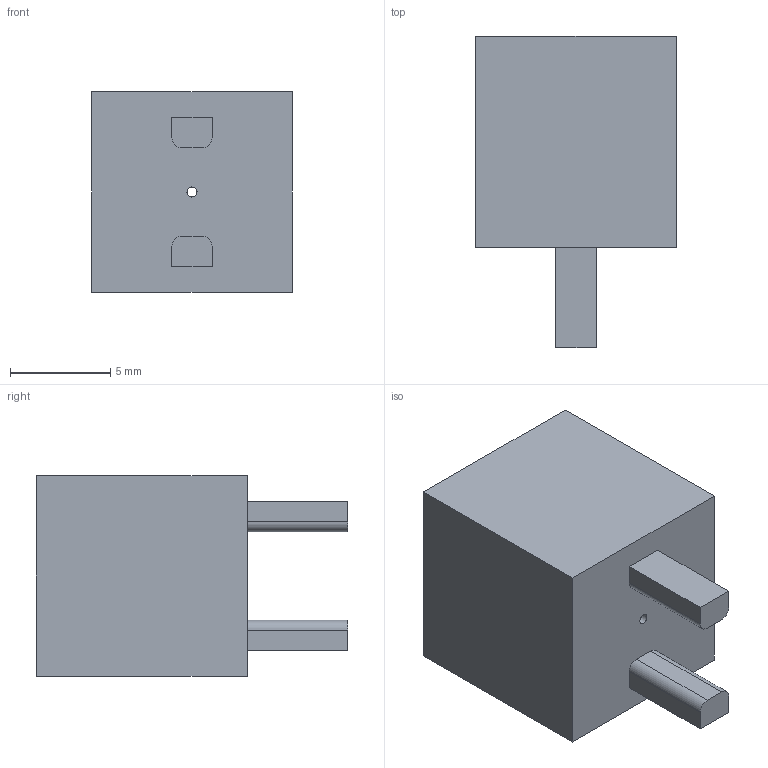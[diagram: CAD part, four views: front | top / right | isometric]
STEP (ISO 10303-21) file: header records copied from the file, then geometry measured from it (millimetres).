
FILE_DESCRIPTION(/* description */ (''),/* implementation_level */ '2;1');
FILE_NAME(/* name */ '_Supp_Fibra_400micron_Optimized.step',/* time_stamp */ '2023-03-13T17:29:02+01:00',/* author */ (''),/* organization */ (''),/* preprocessor_version */ 'ST-DEVELOPER v19.2',/* originating_system */ 'Autodesk Translation Framework v11.17.0.187',/* authorisation */ '');
FILE_SCHEMA (('AUTOMOTIVE_DESIGN { 1 0 10303 214 3 1 1 }'));
Length unit declared in the file: millimetre
Products named in the file (1): _Supp_Fibra_400micron_Optimized
Bounding box: 10 x 15.5 x 10 mm (x, y, z)
Volume: 1076.9 mm3; surface area: 701.8 mm2
Topology: 1 solids, 1 shells, 21 faces, 51 edges, 34 vertices
Faces by surface type: plane 16, cylinder 5
Full cylindrical faces by diameter (mm): 0.5 x1
Entity records: 652 total; most frequent: CARTESIAN_POINT 107, DIRECTION 105, ORIENTED_EDGE 102, EDGE_CURVE 51, LINE 41, VECTOR 41, VERTEX_POINT 34, AXIS2_PLACEMENT_3D 32
